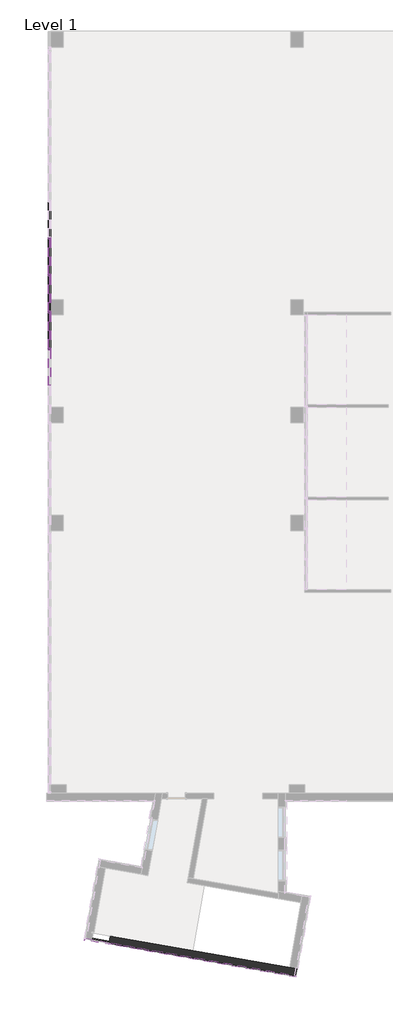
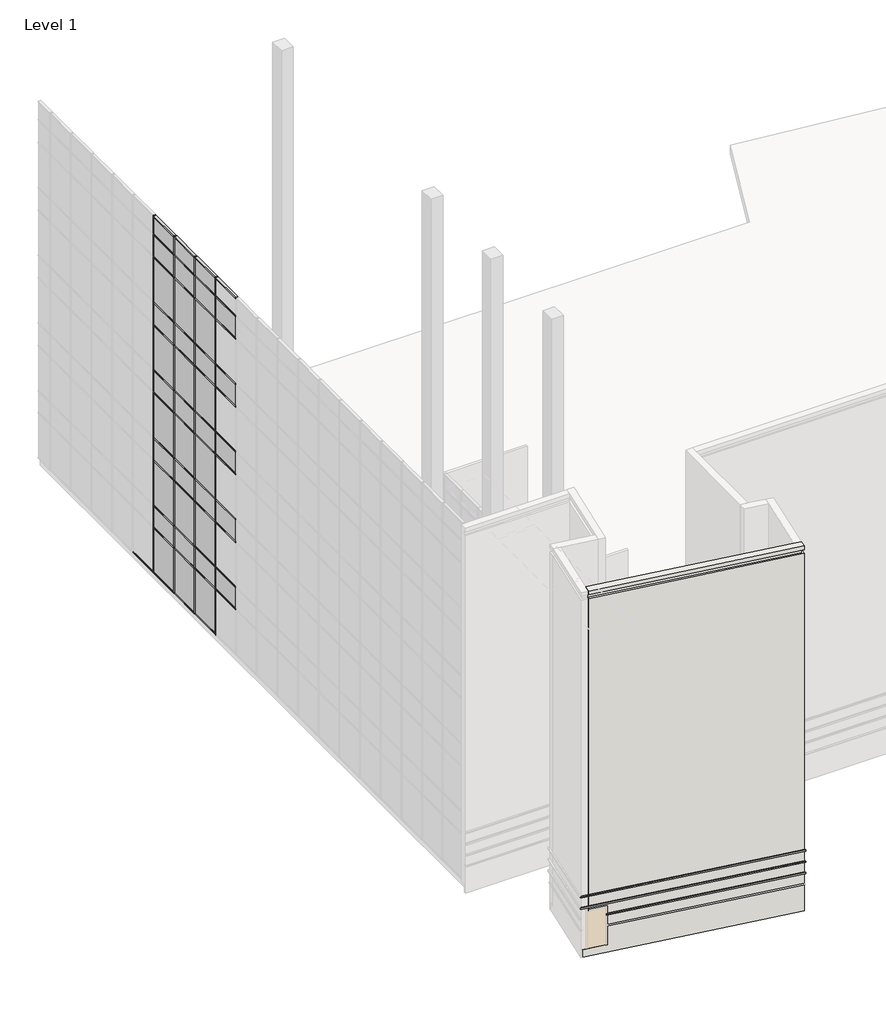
# One storey, part 4 of 23: 72 members, 38 plates, 3 proxies, 1 wall.
"""IFC4 building model written with IfcOpenShell, lengths in millimetres."""

from ifc_helpers import new_model, si_unit, frame, origin, place, context, project, spatial, polyline, outline, extrude, faceted_brep, transform, mapped, element, save
from components import member_f92b8aa2, member_810865a4, member_6d5c3e5e, member_9764dd38, system_panel_glazed_14c75400, system_panel_solid_5dfe6f83, system_panel_solid_e25e2004, system_panel_solid_b7551183

model = new_model("IFC4")

# Units and contexts
model_context = context("Model", 3, world=origin())
ifc_project = project(units=[si_unit("LENGTHUNIT", "METRE", prefix="MILLI")], contexts=[model_context])

# Site, building, storey
site = spatial("IfcSite", under=ifc_project)
building = spatial("IfcBuilding", under=site)
storey = spatial("IfcBuildingStorey", under=building, Name="Level 1", Elevation=0.0)

# Proxies
placement = place(None, origin())
element("IfcBuildingElementProxy", 1, Name="Reveals", at=placement, inside=storey, context=model_context, shape_type="SweptSolid", body=[
    extrude(outline(polyline([(-65796.5031372, -35188.4340603), (-65780.5144812, -35097.7578865), (-56600.3335692, -36716.4714691), (-56525.6460513, -36823.1362989), (-65796.5031372, -35188.4340603)])), frame((0.0, 0.0, 1625.6), z_axis=(0.0, 0.0, 1.0), x_axis=(1.0, 0.0, 0.0)), (0.0, 0.0, 1.0), 67.7333333),
])
element("IfcBuildingElementProxy", 2, Name="Reveals", at=placement, inside=storey, context=model_context, shape_type="SweptSolid", body=[
    extrude(outline(polyline([(-67022.1948666, -34972.3115384), (-66915.5300368, -34897.6240205), (-56600.3335692, -36716.4714691), (-56525.6460513, -36823.1362989), (-67022.1948666, -34972.3115384)])), frame((0.0, 0.0, 2235.2), z_axis=(0.0, 0.0, 1.0), x_axis=(1.0, 0.0, 0.0)), (0.0, 0.0, 1.0), 67.7333333),
])
element("IfcBuildingElementProxy", 3, Name="Reveals", at=placement, inside=storey, context=model_context, shape_type="SweptSolid", body=[
    extrude(outline(polyline([(-67022.1948666, -34972.3115384), (-66915.5300368, -34897.6240205), (-56600.3335692, -36716.4714691), (-56525.6460513, -36823.1362989), (-67022.1948666, -34972.3115384)])), frame((0.0, 0.0, 2844.8), z_axis=(0.0, 0.0, 1.0), x_axis=(1.0, 0.0, 0.0)), (0.0, 0.0, 1.0), 67.7333333),
])

# Members
member_shape = member_f92b8aa2(model_context)
element("IfcMember", 4, ObjectType="Rectangular Mullion : 2.5\" x 5\" rectangular", at=placement, inside=storey, context=model_context, shape_type="MappedRepresentation", body=[
    mapped(member_shape, transform((-68724.2599961, -5768.3103492, 18288.0), x_axis=(0.0, 1.0, 0.0), y_axis=(1.0, 0.0, 0.0), z_axis=(0.0, 0.0, -1.0))),
])
element("IfcMember", 5, ObjectType="Rectangular Mullion : 2.5\" x 5\" rectangular", at=placement, inside=storey, context=model_context, shape_type="MappedRepresentation", body=[
    mapped(member_shape, transform((-68724.2599961, -3939.5103492, 18288.0), x_axis=(0.0, 1.0, 0.0), y_axis=(1.0, 0.0, 0.0), z_axis=(0.0, 0.0, -1.0))),
])
element("IfcMember", 6, ObjectType="Rectangular Mullion : 2.5\" x 5\" rectangular", at=placement, inside=storey, context=model_context, shape_type="MappedRepresentation", body=[
    mapped(member_shape, transform((-68724.2599961, -2110.7103492, 18288.0), x_axis=(0.0, 1.0, 0.0), y_axis=(1.0, 0.0, 0.0), z_axis=(0.0, 0.0, -1.0))),
])
element("IfcMember", 7, ObjectType="Rectangular Mullion : 2.5\" x 5\" rectangular", at=placement, inside=storey, context=model_context, shape_type="MappedRepresentation", body=[
    mapped(member_shape, transform((-68724.2599961, -281.9103492, 18288.0), x_axis=(0.0, 1.0, 0.0), y_axis=(1.0, 0.0, 0.0), z_axis=(0.0, 0.0, -1.0))),
])
member_2_shape = member_810865a4(model_context)
element("IfcMember", 8, ObjectType="Rectangular Mullion : 2.5\" x 5\" rectangular", at=placement, inside=storey, context=model_context, shape_type="MappedRepresentation", body=[
    mapped(member_2_shape, transform((-68724.2599961, -5768.3103492, 3657.6), x_axis=(0.0, 1.0, 0.0), y_axis=(1.0, 0.0, 0.0), z_axis=(0.0, 0.0, -1.0))),
])
element("IfcMember", 9, ObjectType="Rectangular Mullion : 2.5\" x 5\" rectangular", at=placement, inside=storey, context=model_context, shape_type="MappedRepresentation", body=[
    mapped(member_2_shape, transform((-68724.2599961, -3939.5103492, 3657.6), x_axis=(0.0, 1.0, 0.0), y_axis=(1.0, 0.0, 0.0), z_axis=(0.0, 0.0, -1.0))),
])
element("IfcMember", 10, ObjectType="Rectangular Mullion : 2.5\" x 5\" rectangular", at=placement, inside=storey, context=model_context, shape_type="MappedRepresentation", body=[
    mapped(member_2_shape, transform((-68724.2599961, -2110.7103492, 3657.6), x_axis=(0.0, 1.0, 0.0), y_axis=(1.0, 0.0, 0.0), z_axis=(0.0, 0.0, -1.0))),
])
element("IfcMember", 11, ObjectType="Rectangular Mullion : 2.5\" x 5\" rectangular", at=placement, inside=storey, context=model_context, shape_type="MappedRepresentation", body=[
    mapped(member_2_shape, transform((-68724.2599961, -281.9103492, 3657.6), x_axis=(0.0, 1.0, 0.0), y_axis=(1.0, 0.0, 0.0), z_axis=(0.0, 0.0, -1.0))),
])
element("IfcMember", 12, ObjectType="Rectangular Mullion : 2.5\" x 5\" rectangular", at=placement, inside=storey, context=model_context, shape_type="MappedRepresentation", body=[
    mapped(member_2_shape, transform((-68724.2599961, -5768.3103492, 7315.2), x_axis=(0.0, 1.0, 0.0), y_axis=(1.0, 0.0, 0.0), z_axis=(0.0, 0.0, -1.0))),
])
element("IfcMember", 13, ObjectType="Rectangular Mullion : 2.5\" x 5\" rectangular", at=placement, inside=storey, context=model_context, shape_type="MappedRepresentation", body=[
    mapped(member_2_shape, transform((-68724.2599961, -3939.5103492, 7315.2), x_axis=(0.0, 1.0, 0.0), y_axis=(1.0, 0.0, 0.0), z_axis=(0.0, 0.0, -1.0))),
])
element("IfcMember", 14, ObjectType="Rectangular Mullion : 2.5\" x 5\" rectangular", at=placement, inside=storey, context=model_context, shape_type="MappedRepresentation", body=[
    mapped(member_2_shape, transform((-68724.2599961, -2110.7103492, 7315.2), x_axis=(0.0, 1.0, 0.0), y_axis=(1.0, 0.0, 0.0), z_axis=(0.0, 0.0, -1.0))),
])
element("IfcMember", 15, ObjectType="Rectangular Mullion : 2.5\" x 5\" rectangular", at=placement, inside=storey, context=model_context, shape_type="MappedRepresentation", body=[
    mapped(member_2_shape, transform((-68724.2599961, -281.9103492, 7315.2), x_axis=(0.0, 1.0, 0.0), y_axis=(1.0, 0.0, 0.0), z_axis=(0.0, 0.0, -1.0))),
])
element("IfcMember", 16, ObjectType="Rectangular Mullion : 2.5\" x 5\" rectangular", at=placement, inside=storey, context=model_context, shape_type="MappedRepresentation", body=[
    mapped(member_2_shape, transform((-68724.2599961, -5768.3103492, 10972.8), x_axis=(0.0, 1.0, 0.0), y_axis=(1.0, 0.0, 0.0), z_axis=(0.0, 0.0, -1.0))),
])
element("IfcMember", 17, ObjectType="Rectangular Mullion : 2.5\" x 5\" rectangular", at=placement, inside=storey, context=model_context, shape_type="MappedRepresentation", body=[
    mapped(member_2_shape, transform((-68724.2599961, -3939.5103492, 10972.8), x_axis=(0.0, 1.0, 0.0), y_axis=(1.0, 0.0, 0.0), z_axis=(0.0, 0.0, -1.0))),
])
element("IfcMember", 18, ObjectType="Rectangular Mullion : 2.5\" x 5\" rectangular", at=placement, inside=storey, context=model_context, shape_type="MappedRepresentation", body=[
    mapped(member_2_shape, transform((-68724.2599961, -2110.7103492, 10972.8), x_axis=(0.0, 1.0, 0.0), y_axis=(1.0, 0.0, 0.0), z_axis=(0.0, 0.0, -1.0))),
])
element("IfcMember", 19, ObjectType="Rectangular Mullion : 2.5\" x 5\" rectangular", at=placement, inside=storey, context=model_context, shape_type="MappedRepresentation", body=[
    mapped(member_2_shape, transform((-68724.2599961, -281.9103492, 10972.8), x_axis=(0.0, 1.0, 0.0), y_axis=(1.0, 0.0, 0.0), z_axis=(0.0, 0.0, -1.0))),
])
element("IfcMember", 20, ObjectType="Rectangular Mullion : 2.5\" x 5\" rectangular", at=placement, inside=storey, context=model_context, shape_type="MappedRepresentation", body=[
    mapped(member_2_shape, transform((-68724.2599961, -5768.3103492, 14630.4), x_axis=(0.0, 1.0, 0.0), y_axis=(1.0, 0.0, 0.0), z_axis=(0.0, 0.0, -1.0))),
])
element("IfcMember", 21, ObjectType="Rectangular Mullion : 2.5\" x 5\" rectangular", at=placement, inside=storey, context=model_context, shape_type="MappedRepresentation", body=[
    mapped(member_2_shape, transform((-68724.2599961, -3939.5103492, 14630.4), x_axis=(0.0, 1.0, 0.0), y_axis=(1.0, 0.0, 0.0), z_axis=(0.0, 0.0, -1.0))),
])
element("IfcMember", 22, ObjectType="Rectangular Mullion : 2.5\" x 5\" rectangular", at=placement, inside=storey, context=model_context, shape_type="MappedRepresentation", body=[
    mapped(member_2_shape, transform((-68724.2599961, -2110.7103492, 14630.4), x_axis=(0.0, 1.0, 0.0), y_axis=(1.0, 0.0, 0.0), z_axis=(0.0, 0.0, -1.0))),
])
element("IfcMember", 23, ObjectType="Rectangular Mullion : 2.5\" x 5\" rectangular", at=placement, inside=storey, context=model_context, shape_type="MappedRepresentation", body=[
    mapped(member_2_shape, transform((-68724.2599961, -281.9103492, 14630.4), x_axis=(0.0, 1.0, 0.0), y_axis=(1.0, 0.0, 0.0), z_axis=(0.0, 0.0, -1.0))),
])
member_3_shape = member_6d5c3e5e(model_context)
element("IfcMember", 24, ObjectType="Rectangular Mullion : 2.5\" x 5\" rectangular", at=placement, inside=storey, context=model_context, shape_type="MappedRepresentation", body=[
    mapped(member_3_shape, transform((-68724.2599961, -5800.0603492, 19304.0), x_axis=(0.0, 0.0, 1.0), y_axis=(1.0, 0.0, 0.0), z_axis=(0.0, 1.0, 0.0))),
])
element("IfcMember", 25, ObjectType="Rectangular Mullion : 2.5\" x 5\" rectangular", at=placement, inside=storey, context=model_context, shape_type="MappedRepresentation", body=[
    mapped(member_3_shape, transform((-68724.2599961, -3971.2603492, 19304.0), x_axis=(0.0, 0.0, 1.0), y_axis=(1.0, 0.0, 0.0), z_axis=(0.0, 1.0, 0.0))),
])
element("IfcMember", 26, ObjectType="Rectangular Mullion : 2.5\" x 5\" rectangular", at=placement, inside=storey, context=model_context, shape_type="MappedRepresentation", body=[
    mapped(member_3_shape, transform((-68724.2599961, -2142.4603492, 19304.0), x_axis=(0.0, 0.0, 1.0), y_axis=(1.0, 0.0, 0.0), z_axis=(0.0, 1.0, 0.0))),
])
element("IfcMember", 27, ObjectType="Rectangular Mullion : 2.5\" x 5\" rectangular", at=placement, inside=storey, context=model_context, shape_type="MappedRepresentation", body=[
    mapped(member_3_shape, transform((-68724.2599961, -313.6603492, 19304.0), x_axis=(0.0, 0.0, 1.0), y_axis=(1.0, 0.0, 0.0), z_axis=(0.0, 1.0, 0.0))),
])
member_4_shape = member_9764dd38(model_context)
element("IfcMember", 28, ObjectType="Rectangular Mullion : 2.5\" x 5\" rectangular", at=placement, inside=storey, context=model_context, shape_type="MappedRepresentation", body=[
    mapped(member_4_shape, transform((-68724.2599961, -313.6603492, 17068.8), x_axis=(0.0, 0.0, 1.0), y_axis=(1.0, 0.0, 0.0), z_axis=(0.0, 1.0, 0.0))),
])
element("IfcMember", 29, ObjectType="Rectangular Mullion : 2.5\" x 5\" rectangular", at=placement, inside=storey, context=model_context, shape_type="MappedRepresentation", body=[
    mapped(member_4_shape, transform((-68724.2599961, -2142.4603492, 17068.8), x_axis=(0.0, 0.0, 1.0), y_axis=(1.0, 0.0, 0.0), z_axis=(0.0, 1.0, 0.0))),
])
element("IfcMember", 30, ObjectType="Rectangular Mullion : 2.5\" x 5\" rectangular", at=placement, inside=storey, context=model_context, shape_type="MappedRepresentation", body=[
    mapped(member_4_shape, transform((-68724.2599961, -3971.2603492, 17068.8), x_axis=(0.0, 0.0, 1.0), y_axis=(1.0, 0.0, 0.0), z_axis=(0.0, 1.0, 0.0))),
])
element("IfcMember", 31, ObjectType="Rectangular Mullion : 2.5\" x 5\" rectangular", at=placement, inside=storey, context=model_context, shape_type="MappedRepresentation", body=[
    mapped(member_4_shape, transform((-68724.2599961, -5800.0603492, 17068.8), x_axis=(0.0, 0.0, 1.0), y_axis=(1.0, 0.0, 0.0), z_axis=(0.0, 1.0, 0.0))),
])
element("IfcMember", 32, ObjectType="Rectangular Mullion : 2.5\" x 5\" rectangular", at=placement, inside=storey, context=model_context, shape_type="MappedRepresentation", body=[
    mapped(member_4_shape, transform((-68724.2599961, -313.6603492, 13411.2), x_axis=(0.0, 0.0, 1.0), y_axis=(1.0, 0.0, 0.0), z_axis=(0.0, 1.0, 0.0))),
])
element("IfcMember", 33, ObjectType="Rectangular Mullion : 2.5\" x 5\" rectangular", at=placement, inside=storey, context=model_context, shape_type="MappedRepresentation", body=[
    mapped(member_4_shape, transform((-68724.2599961, -2142.4603492, 13411.2), x_axis=(0.0, 0.0, 1.0), y_axis=(1.0, 0.0, 0.0), z_axis=(0.0, 1.0, 0.0))),
])
element("IfcMember", 34, ObjectType="Rectangular Mullion : 2.5\" x 5\" rectangular", at=placement, inside=storey, context=model_context, shape_type="MappedRepresentation", body=[
    mapped(member_4_shape, transform((-68724.2599961, -3971.2603492, 13411.2), x_axis=(0.0, 0.0, 1.0), y_axis=(1.0, 0.0, 0.0), z_axis=(0.0, 1.0, 0.0))),
])
element("IfcMember", 35, ObjectType="Rectangular Mullion : 2.5\" x 5\" rectangular", at=placement, inside=storey, context=model_context, shape_type="MappedRepresentation", body=[
    mapped(member_4_shape, transform((-68724.2599961, -5800.0603492, 13411.2), x_axis=(0.0, 0.0, 1.0), y_axis=(1.0, 0.0, 0.0), z_axis=(0.0, 1.0, 0.0))),
])
element("IfcMember", 36, ObjectType="Rectangular Mullion : 2.5\" x 5\" rectangular", at=placement, inside=storey, context=model_context, shape_type="MappedRepresentation", body=[
    mapped(member_4_shape, transform((-68724.2599961, -313.6603492, 9753.6), x_axis=(0.0, 0.0, 1.0), y_axis=(1.0, 0.0, 0.0), z_axis=(0.0, 1.0, 0.0))),
])
element("IfcMember", 37, ObjectType="Rectangular Mullion : 2.5\" x 5\" rectangular", at=placement, inside=storey, context=model_context, shape_type="MappedRepresentation", body=[
    mapped(member_4_shape, transform((-68724.2599961, -2142.4603492, 9753.6), x_axis=(0.0, 0.0, 1.0), y_axis=(1.0, 0.0, 0.0), z_axis=(0.0, 1.0, 0.0))),
])
element("IfcMember", 38, ObjectType="Rectangular Mullion : 2.5\" x 5\" rectangular", at=placement, inside=storey, context=model_context, shape_type="MappedRepresentation", body=[
    mapped(member_4_shape, transform((-68724.2599961, -3971.2603492, 9753.6), x_axis=(0.0, 0.0, 1.0), y_axis=(1.0, 0.0, 0.0), z_axis=(0.0, 1.0, 0.0))),
])
element("IfcMember", 39, ObjectType="Rectangular Mullion : 2.5\" x 5\" rectangular", at=placement, inside=storey, context=model_context, shape_type="MappedRepresentation", body=[
    mapped(member_4_shape, transform((-68724.2599961, -5800.0603492, 9753.6), x_axis=(0.0, 0.0, 1.0), y_axis=(1.0, 0.0, 0.0), z_axis=(0.0, 1.0, 0.0))),
])
element("IfcMember", 40, ObjectType="Rectangular Mullion : 2.5\" x 5\" rectangular", at=placement, inside=storey, context=model_context, shape_type="MappedRepresentation", body=[
    mapped(member_4_shape, transform((-68724.2599961, -313.6603492, 6096.0), x_axis=(0.0, 0.0, 1.0), y_axis=(1.0, 0.0, 0.0), z_axis=(0.0, 1.0, 0.0))),
])
element("IfcMember", 41, ObjectType="Rectangular Mullion : 2.5\" x 5\" rectangular", at=placement, inside=storey, context=model_context, shape_type="MappedRepresentation", body=[
    mapped(member_4_shape, transform((-68724.2599961, -2142.4603492, 6096.0), x_axis=(0.0, 0.0, 1.0), y_axis=(1.0, 0.0, 0.0), z_axis=(0.0, 1.0, 0.0))),
])
element("IfcMember", 42, ObjectType="Rectangular Mullion : 2.5\" x 5\" rectangular", at=placement, inside=storey, context=model_context, shape_type="MappedRepresentation", body=[
    mapped(member_4_shape, transform((-68724.2599961, -3971.2603492, 6096.0), x_axis=(0.0, 0.0, 1.0), y_axis=(1.0, 0.0, 0.0), z_axis=(0.0, 1.0, 0.0))),
])
element("IfcMember", 43, ObjectType="Rectangular Mullion : 2.5\" x 5\" rectangular", at=placement, inside=storey, context=model_context, shape_type="MappedRepresentation", body=[
    mapped(member_4_shape, transform((-68724.2599961, -5800.0603492, 6096.0), x_axis=(0.0, 0.0, 1.0), y_axis=(1.0, 0.0, 0.0), z_axis=(0.0, 1.0, 0.0))),
])
element("IfcMember", 44, ObjectType="Rectangular Mullion : 2.5\" x 5\" rectangular", at=placement, inside=storey, context=model_context, shape_type="MappedRepresentation", body=[
    mapped(member_4_shape, transform((-68724.2599961, -313.6603492, 2470.15), x_axis=(0.0, 0.0, 1.0), y_axis=(1.0, 0.0, 0.0), z_axis=(0.0, 1.0, 0.0))),
])
element("IfcMember", 45, ObjectType="Rectangular Mullion : 2.5\" x 5\" rectangular", at=placement, inside=storey, context=model_context, shape_type="MappedRepresentation", body=[
    mapped(member_4_shape, transform((-68724.2599961, -2142.4603492, 2470.15), x_axis=(0.0, 0.0, 1.0), y_axis=(1.0, 0.0, 0.0), z_axis=(0.0, 1.0, 0.0))),
])
element("IfcMember", 46, ObjectType="Rectangular Mullion : 2.5\" x 5\" rectangular", at=placement, inside=storey, context=model_context, shape_type="MappedRepresentation", body=[
    mapped(member_4_shape, transform((-68724.2599961, -3971.2603492, 2470.15), x_axis=(0.0, 0.0, 1.0), y_axis=(1.0, 0.0, 0.0), z_axis=(0.0, 1.0, 0.0))),
])
element("IfcMember", 47, ObjectType="Rectangular Mullion : 2.5\" x 5\" rectangular", at=placement, inside=storey, context=model_context, shape_type="MappedRepresentation", body=[
    mapped(member_4_shape, transform((-68724.2599961, -5800.0603492, 2470.15), x_axis=(0.0, 0.0, 1.0), y_axis=(1.0, 0.0, 0.0), z_axis=(0.0, 1.0, 0.0))),
])
element("IfcMember", 48, ObjectType="Rectangular Mullion : 2.5\" x 5\" rectangular", at=placement, inside=storey, context=model_context, shape_type="MappedRepresentation", body=[
    mapped(member_2_shape, transform((-68724.2599961, -5768.3103492, 0.0), x_axis=(0.0, 1.0, 0.0), y_axis=(1.0, 0.0, 0.0), z_axis=(0.0, 0.0, -1.0))),
])
element("IfcMember", 49, ObjectType="Rectangular Mullion : 2.5\" x 5\" rectangular", at=placement, inside=storey, context=model_context, shape_type="MappedRepresentation", body=[
    mapped(member_2_shape, transform((-68724.2599961, -3939.5103492, 0.0), x_axis=(0.0, 1.0, 0.0), y_axis=(1.0, 0.0, 0.0), z_axis=(0.0, 0.0, -1.0))),
])
element("IfcMember", 50, ObjectType="Rectangular Mullion : 2.5\" x 5\" rectangular", at=placement, inside=storey, context=model_context, shape_type="MappedRepresentation", body=[
    mapped(member_2_shape, transform((-68724.2599961, -2110.7103492, 0.0), x_axis=(0.0, 1.0, 0.0), y_axis=(1.0, 0.0, 0.0), z_axis=(0.0, 0.0, -1.0))),
])
element("IfcMember", 51, ObjectType="Rectangular Mullion : 2.5\" x 5\" rectangular", at=placement, inside=storey, context=model_context, shape_type="MappedRepresentation", body=[
    mapped(member_2_shape, transform((-68724.2599961, -281.9103492, 0.0), x_axis=(0.0, 1.0, 0.0), y_axis=(1.0, 0.0, 0.0), z_axis=(0.0, 0.0, -1.0))),
])
element("IfcMember", 52, ObjectType="Rectangular Mullion : 2.5\" x 5\" rectangular", at=placement, inside=storey, context=model_context, shape_type="MappedRepresentation", body=[
    mapped(member_3_shape, transform((-68724.2599961, -5736.5603492, 0.0), x_axis=(0.0, 0.0, -1.0), y_axis=(1.0, 0.0, 0.0), z_axis=(0.0, -1.0, 0.0))),
])
element("IfcMember", 53, ObjectType="Rectangular Mullion : 2.5\" x 5\" rectangular", at=placement, inside=storey, context=model_context, shape_type="MappedRepresentation", body=[
    mapped(member_3_shape, transform((-68724.2599961, -3907.7603492, 0.0), x_axis=(0.0, 0.0, -1.0), y_axis=(1.0, 0.0, 0.0), z_axis=(0.0, -1.0, 0.0))),
])
element("IfcMember", 54, ObjectType="Rectangular Mullion : 2.5\" x 5\" rectangular", at=placement, inside=storey, context=model_context, shape_type="MappedRepresentation", body=[
    mapped(member_3_shape, transform((-68724.2599961, -2078.9603492, 0.0), x_axis=(0.0, 0.0, -1.0), y_axis=(1.0, 0.0, 0.0), z_axis=(0.0, -1.0, 0.0))),
])
element("IfcMember", 55, ObjectType="Rectangular Mullion : 2.5\" x 5\" rectangular", at=placement, inside=storey, context=model_context, shape_type="MappedRepresentation", body=[
    mapped(member_3_shape, transform((-68724.2599961, -250.1603492, 0.0), x_axis=(0.0, 0.0, -1.0), y_axis=(1.0, 0.0, 0.0), z_axis=(0.0, -1.0, 0.0))),
])
element("IfcMember", 56, ObjectType="Rectangular Mullion : 2.5\" x 5\" rectangular", at=placement, inside=storey, context=model_context, shape_type="MappedRepresentation", body=[
    mapped(member_4_shape, transform((-68724.2599961, -5800.0603492, 3657.6), x_axis=(0.0, 0.0, 1.0), y_axis=(1.0, 0.0, 0.0), z_axis=(0.0, 1.0, 0.0))),
])
element("IfcMember", 57, ObjectType="Rectangular Mullion : 2.5\" x 5\" rectangular", at=placement, inside=storey, context=model_context, shape_type="MappedRepresentation", body=[
    mapped(member_4_shape, transform((-68724.2599961, -3971.2603492, 3657.6), x_axis=(0.0, 0.0, 1.0), y_axis=(1.0, 0.0, 0.0), z_axis=(0.0, 1.0, 0.0))),
])
element("IfcMember", 58, ObjectType="Rectangular Mullion : 2.5\" x 5\" rectangular", at=placement, inside=storey, context=model_context, shape_type="MappedRepresentation", body=[
    mapped(member_4_shape, transform((-68724.2599961, -2142.4603492, 3657.6), x_axis=(0.0, 0.0, 1.0), y_axis=(1.0, 0.0, 0.0), z_axis=(0.0, 1.0, 0.0))),
])
element("IfcMember", 59, ObjectType="Rectangular Mullion : 2.5\" x 5\" rectangular", at=placement, inside=storey, context=model_context, shape_type="MappedRepresentation", body=[
    mapped(member_4_shape, transform((-68724.2599961, -313.6603492, 3657.6), x_axis=(0.0, 0.0, 1.0), y_axis=(1.0, 0.0, 0.0), z_axis=(0.0, 1.0, 0.0))),
])
element("IfcMember", 60, ObjectType="Rectangular Mullion : 2.5\" x 5\" rectangular", at=placement, inside=storey, context=model_context, shape_type="MappedRepresentation", body=[
    mapped(member_4_shape, transform((-68724.2599961, -5800.0603492, 7315.2), x_axis=(0.0, 0.0, 1.0), y_axis=(1.0, 0.0, 0.0), z_axis=(0.0, 1.0, 0.0))),
])
element("IfcMember", 61, ObjectType="Rectangular Mullion : 2.5\" x 5\" rectangular", at=placement, inside=storey, context=model_context, shape_type="MappedRepresentation", body=[
    mapped(member_4_shape, transform((-68724.2599961, -3971.2603492, 7315.2), x_axis=(0.0, 0.0, 1.0), y_axis=(1.0, 0.0, 0.0), z_axis=(0.0, 1.0, 0.0))),
])
element("IfcMember", 62, ObjectType="Rectangular Mullion : 2.5\" x 5\" rectangular", at=placement, inside=storey, context=model_context, shape_type="MappedRepresentation", body=[
    mapped(member_4_shape, transform((-68724.2599961, -2142.4603492, 7315.2), x_axis=(0.0, 0.0, 1.0), y_axis=(1.0, 0.0, 0.0), z_axis=(0.0, 1.0, 0.0))),
])
element("IfcMember", 63, ObjectType="Rectangular Mullion : 2.5\" x 5\" rectangular", at=placement, inside=storey, context=model_context, shape_type="MappedRepresentation", body=[
    mapped(member_4_shape, transform((-68724.2599961, -313.6603492, 7315.2), x_axis=(0.0, 0.0, 1.0), y_axis=(1.0, 0.0, 0.0), z_axis=(0.0, 1.0, 0.0))),
])
element("IfcMember", 64, ObjectType="Rectangular Mullion : 2.5\" x 5\" rectangular", at=placement, inside=storey, context=model_context, shape_type="MappedRepresentation", body=[
    mapped(member_4_shape, transform((-68724.2599961, -5800.0603492, 10972.8), x_axis=(0.0, 0.0, 1.0), y_axis=(1.0, 0.0, 0.0), z_axis=(0.0, 1.0, 0.0))),
])
element("IfcMember", 65, ObjectType="Rectangular Mullion : 2.5\" x 5\" rectangular", at=placement, inside=storey, context=model_context, shape_type="MappedRepresentation", body=[
    mapped(member_4_shape, transform((-68724.2599961, -3971.2603492, 10972.8), x_axis=(0.0, 0.0, 1.0), y_axis=(1.0, 0.0, 0.0), z_axis=(0.0, 1.0, 0.0))),
])
element("IfcMember", 66, ObjectType="Rectangular Mullion : 2.5\" x 5\" rectangular", at=placement, inside=storey, context=model_context, shape_type="MappedRepresentation", body=[
    mapped(member_4_shape, transform((-68724.2599961, -2142.4603492, 10972.8), x_axis=(0.0, 0.0, 1.0), y_axis=(1.0, 0.0, 0.0), z_axis=(0.0, 1.0, 0.0))),
])
element("IfcMember", 67, ObjectType="Rectangular Mullion : 2.5\" x 5\" rectangular", at=placement, inside=storey, context=model_context, shape_type="MappedRepresentation", body=[
    mapped(member_4_shape, transform((-68724.2599961, -313.6603492, 10972.8), x_axis=(0.0, 0.0, 1.0), y_axis=(1.0, 0.0, 0.0), z_axis=(0.0, 1.0, 0.0))),
])
element("IfcMember", 68, ObjectType="Rectangular Mullion : 2.5\" x 5\" rectangular", at=placement, inside=storey, context=model_context, shape_type="MappedRepresentation", body=[
    mapped(member_4_shape, transform((-68724.2599961, -5800.0603492, 14630.4), x_axis=(0.0, 0.0, 1.0), y_axis=(1.0, 0.0, 0.0), z_axis=(0.0, 1.0, 0.0))),
])
element("IfcMember", 69, ObjectType="Rectangular Mullion : 2.5\" x 5\" rectangular", at=placement, inside=storey, context=model_context, shape_type="MappedRepresentation", body=[
    mapped(member_4_shape, transform((-68724.2599961, -3971.2603492, 14630.4), x_axis=(0.0, 0.0, 1.0), y_axis=(1.0, 0.0, 0.0), z_axis=(0.0, 1.0, 0.0))),
])
element("IfcMember", 70, ObjectType="Rectangular Mullion : 2.5\" x 5\" rectangular", at=placement, inside=storey, context=model_context, shape_type="MappedRepresentation", body=[
    mapped(member_4_shape, transform((-68724.2599961, -2142.4603492, 14630.4), x_axis=(0.0, 0.0, 1.0), y_axis=(1.0, 0.0, 0.0), z_axis=(0.0, 1.0, 0.0))),
])
element("IfcMember", 71, ObjectType="Rectangular Mullion : 2.5\" x 5\" rectangular", at=placement, inside=storey, context=model_context, shape_type="MappedRepresentation", body=[
    mapped(member_4_shape, transform((-68724.2599961, -313.6603492, 14630.4), x_axis=(0.0, 0.0, 1.0), y_axis=(1.0, 0.0, 0.0), z_axis=(0.0, 1.0, 0.0))),
])
element("IfcMember", 72, ObjectType="Rectangular Mullion : 2.5\" x 5\" rectangular", at=placement, inside=storey, context=model_context, shape_type="MappedRepresentation", body=[
    mapped(member_4_shape, transform((-68724.2599961, -5800.0603492, 18288.0), x_axis=(0.0, 0.0, 1.0), y_axis=(1.0, 0.0, 0.0), z_axis=(0.0, 1.0, 0.0))),
])
element("IfcMember", 73, ObjectType="Rectangular Mullion : 2.5\" x 5\" rectangular", at=placement, inside=storey, context=model_context, shape_type="MappedRepresentation", body=[
    mapped(member_4_shape, transform((-68724.2599961, -3971.2603492, 18288.0), x_axis=(0.0, 0.0, 1.0), y_axis=(1.0, 0.0, 0.0), z_axis=(0.0, 1.0, 0.0))),
])
element("IfcMember", 74, ObjectType="Rectangular Mullion : 2.5\" x 5\" rectangular", at=placement, inside=storey, context=model_context, shape_type="MappedRepresentation", body=[
    mapped(member_4_shape, transform((-68724.2599961, -2142.4603492, 18288.0), x_axis=(0.0, 0.0, 1.0), y_axis=(1.0, 0.0, 0.0), z_axis=(0.0, 1.0, 0.0))),
])
element("IfcMember", 75, ObjectType="Rectangular Mullion : 2.5\" x 5\" rectangular", at=placement, inside=storey, context=model_context, shape_type="MappedRepresentation", body=[
    mapped(member_4_shape, transform((-68724.2599961, -313.6603492, 18288.0), x_axis=(0.0, 0.0, 1.0), y_axis=(1.0, 0.0, 0.0), z_axis=(0.0, 1.0, 0.0))),
])

# Plates
system_panel_glazed_shape = system_panel_glazed_14c75400(model_context)
element("IfcPlate", 76, ObjectType="System Panel : Glazed", at=placement, inside=storey, context=model_context, shape_type="MappedRepresentation", body=[
    mapped(system_panel_glazed_shape, transform((-68724.2599961, -1196.3103492, 14662.15), x_axis=(0.0, 1.0, 0.0), y_axis=(-1.0, 0.0, 0.0), z_axis=(0.0, 0.0, 1.0))),
])
element("IfcPlate", 77, ObjectType="System Panel : Glazed", at=placement, inside=storey, context=model_context, shape_type="MappedRepresentation", body=[
    mapped(system_panel_glazed_shape, transform((-68724.2599961, -3025.1103492, 14662.15), x_axis=(0.0, 1.0, 0.0), y_axis=(-1.0, 0.0, 0.0), z_axis=(0.0, 0.0, 1.0))),
])
element("IfcPlate", 78, ObjectType="System Panel : Glazed", at=placement, inside=storey, context=model_context, shape_type="MappedRepresentation", body=[
    mapped(system_panel_glazed_shape, transform((-68724.2599961, -4853.9103492, 14662.15), x_axis=(0.0, 1.0, 0.0), y_axis=(-1.0, 0.0, 0.0), z_axis=(0.0, 0.0, 1.0))),
])
element("IfcPlate", 79, ObjectType="System Panel : Glazed", at=placement, inside=storey, context=model_context, shape_type="MappedRepresentation", body=[
    mapped(system_panel_glazed_shape, transform((-68724.2599961, -1196.3103492, 11004.55), x_axis=(0.0, 1.0, 0.0), y_axis=(-1.0, 0.0, 0.0), z_axis=(0.0, 0.0, 1.0))),
])
element("IfcPlate", 80, ObjectType="System Panel : Glazed", at=placement, inside=storey, context=model_context, shape_type="MappedRepresentation", body=[
    mapped(system_panel_glazed_shape, transform((-68724.2599961, -3025.1103492, 11004.55), x_axis=(0.0, 1.0, 0.0), y_axis=(-1.0, 0.0, 0.0), z_axis=(0.0, 0.0, 1.0))),
])
element("IfcPlate", 81, ObjectType="System Panel : Glazed", at=placement, inside=storey, context=model_context, shape_type="MappedRepresentation", body=[
    mapped(system_panel_glazed_shape, transform((-68724.2599961, -4853.9103492, 11004.55), x_axis=(0.0, 1.0, 0.0), y_axis=(-1.0, 0.0, 0.0), z_axis=(0.0, 0.0, 1.0))),
])
element("IfcPlate", 82, ObjectType="System Panel : Glazed", at=placement, inside=storey, context=model_context, shape_type="MappedRepresentation", body=[
    mapped(system_panel_glazed_shape, transform((-68724.2599961, -1196.3103492, 7346.95), x_axis=(0.0, 1.0, 0.0), y_axis=(-1.0, 0.0, 0.0), z_axis=(0.0, 0.0, 1.0))),
])
element("IfcPlate", 83, ObjectType="System Panel : Glazed", at=placement, inside=storey, context=model_context, shape_type="MappedRepresentation", body=[
    mapped(system_panel_glazed_shape, transform((-68724.2599961, -3025.1103492, 7346.95), x_axis=(0.0, 1.0, 0.0), y_axis=(-1.0, 0.0, 0.0), z_axis=(0.0, 0.0, 1.0))),
])
element("IfcPlate", 84, ObjectType="System Panel : Glazed", at=placement, inside=storey, context=model_context, shape_type="MappedRepresentation", body=[
    mapped(system_panel_glazed_shape, transform((-68724.2599961, -4853.9103492, 7346.95), x_axis=(0.0, 1.0, 0.0), y_axis=(-1.0, 0.0, 0.0), z_axis=(0.0, 0.0, 1.0))),
])
element("IfcPlate", 85, ObjectType="System Panel : Glazed", at=placement, inside=storey, context=model_context, shape_type="MappedRepresentation", body=[
    mapped(system_panel_glazed_shape, transform((-68724.2599961, -1196.3103492, 3689.35), x_axis=(0.0, 1.0, 0.0), y_axis=(-1.0, 0.0, 0.0), z_axis=(0.0, 0.0, 1.0))),
])
element("IfcPlate", 86, ObjectType="System Panel : Glazed", at=placement, inside=storey, context=model_context, shape_type="MappedRepresentation", body=[
    mapped(system_panel_glazed_shape, transform((-68724.2599961, -3025.1103492, 3689.35), x_axis=(0.0, 1.0, 0.0), y_axis=(-1.0, 0.0, 0.0), z_axis=(0.0, 0.0, 1.0))),
])
element("IfcPlate", 87, ObjectType="System Panel : Glazed", at=placement, inside=storey, context=model_context, shape_type="MappedRepresentation", body=[
    mapped(system_panel_glazed_shape, transform((-68724.2599961, -4853.9103492, 3689.35), x_axis=(0.0, 1.0, 0.0), y_axis=(-1.0, 0.0, 0.0), z_axis=(0.0, 0.0, 1.0))),
])
element("IfcPlate", 88, ObjectType="System Panel : Glazed", at=placement, inside=storey, context=model_context, shape_type="MappedRepresentation", body=[
    mapped(system_panel_glazed_shape, transform((-68724.2599961, -1196.3103492, 63.5), x_axis=(0.0, 1.0, 0.0), y_axis=(-1.0, 0.0, 0.0), z_axis=(0.0, 0.0, 1.0))),
])
element("IfcPlate", 89, ObjectType="System Panel : Glazed", at=placement, inside=storey, context=model_context, shape_type="MappedRepresentation", body=[
    mapped(system_panel_glazed_shape, transform((-68724.2599961, -3025.1103492, 63.5), x_axis=(0.0, 1.0, 0.0), y_axis=(-1.0, 0.0, 0.0), z_axis=(0.0, 0.0, 1.0))),
])
element("IfcPlate", 90, ObjectType="System Panel : Glazed", at=placement, inside=storey, context=model_context, shape_type="MappedRepresentation", body=[
    mapped(system_panel_glazed_shape, transform((-68724.2599961, -4853.9103492, 63.5), x_axis=(0.0, 1.0, 0.0), y_axis=(-1.0, 0.0, 0.0), z_axis=(0.0, 0.0, 1.0))),
])
system_panel_solid_shape = system_panel_solid_5dfe6f83(model_context)
element("IfcPlate", 91, ObjectType="System Panel : Solid", at=placement, inside=storey, context=model_context, shape_type="MappedRepresentation", body=[
    mapped(system_panel_solid_shape, transform((-68724.2599961, -4853.9103492, 18319.75), x_axis=(0.0, 1.0, 0.0), y_axis=(-1.0, 0.0, 0.0), z_axis=(0.0, 0.0, 1.0))),
])
element("IfcPlate", 92, ObjectType="System Panel : Solid", at=placement, inside=storey, context=model_context, shape_type="MappedRepresentation", body=[
    mapped(system_panel_solid_shape, transform((-68724.2599961, -3025.1103492, 18319.75), x_axis=(0.0, 1.0, 0.0), y_axis=(-1.0, 0.0, 0.0), z_axis=(0.0, 0.0, 1.0))),
])
element("IfcPlate", 93, ObjectType="System Panel : Solid", at=placement, inside=storey, context=model_context, shape_type="MappedRepresentation", body=[
    mapped(system_panel_solid_shape, transform((-68724.2599961, -1196.3103492, 18319.75), x_axis=(0.0, 1.0, 0.0), y_axis=(-1.0, 0.0, 0.0), z_axis=(0.0, 0.0, 1.0))),
])
system_panel_solid_2_shape = system_panel_solid_e25e2004(model_context)
element("IfcPlate", 94, ObjectType="System Panel : Solid", at=placement, inside=storey, context=model_context, shape_type="MappedRepresentation", body=[
    mapped(system_panel_solid_2_shape, transform((-68724.2599961, -1196.3103492, 17100.55), x_axis=(0.0, 1.0, 0.0), y_axis=(-1.0, 0.0, 0.0), z_axis=(0.0, 0.0, 1.0))),
])
element("IfcPlate", 95, ObjectType="System Panel : Solid", at=placement, inside=storey, context=model_context, shape_type="MappedRepresentation", body=[
    mapped(system_panel_solid_2_shape, transform((-68724.2599961, -3025.1103492, 17100.55), x_axis=(0.0, 1.0, 0.0), y_axis=(-1.0, 0.0, 0.0), z_axis=(0.0, 0.0, 1.0))),
])
element("IfcPlate", 96, ObjectType="System Panel : Solid", at=placement, inside=storey, context=model_context, shape_type="MappedRepresentation", body=[
    mapped(system_panel_solid_2_shape, transform((-68724.2599961, -4853.9103492, 17100.55), x_axis=(0.0, 1.0, 0.0), y_axis=(-1.0, 0.0, 0.0), z_axis=(0.0, 0.0, 1.0))),
])
element("IfcPlate", 97, ObjectType="System Panel : Solid", at=placement, inside=storey, context=model_context, shape_type="MappedRepresentation", body=[
    mapped(system_panel_solid_2_shape, transform((-68724.2599961, -6682.7103492, 17100.55), x_axis=(0.0, 1.0, 0.0), y_axis=(-1.0, 0.0, 0.0), z_axis=(0.0, 0.0, 1.0))),
])
element("IfcPlate", 98, ObjectType="System Panel : Solid", at=placement, inside=storey, context=model_context, shape_type="MappedRepresentation", body=[
    mapped(system_panel_solid_2_shape, transform((-68724.2599961, -1196.3103492, 13442.95), x_axis=(0.0, 1.0, 0.0), y_axis=(-1.0, 0.0, 0.0), z_axis=(0.0, 0.0, 1.0))),
])
element("IfcPlate", 99, ObjectType="System Panel : Solid", at=placement, inside=storey, context=model_context, shape_type="MappedRepresentation", body=[
    mapped(system_panel_solid_2_shape, transform((-68724.2599961, -3025.1103492, 13442.95), x_axis=(0.0, 1.0, 0.0), y_axis=(-1.0, 0.0, 0.0), z_axis=(0.0, 0.0, 1.0))),
])
element("IfcPlate", 100, ObjectType="System Panel : Solid", at=placement, inside=storey, context=model_context, shape_type="MappedRepresentation", body=[
    mapped(system_panel_solid_2_shape, transform((-68724.2599961, -4853.9103492, 13442.95), x_axis=(0.0, 1.0, 0.0), y_axis=(-1.0, 0.0, 0.0), z_axis=(0.0, 0.0, 1.0))),
])
element("IfcPlate", 101, ObjectType="System Panel : Solid", at=placement, inside=storey, context=model_context, shape_type="MappedRepresentation", body=[
    mapped(system_panel_solid_2_shape, transform((-68724.2599961, -6682.7103492, 13442.95), x_axis=(0.0, 1.0, 0.0), y_axis=(-1.0, 0.0, 0.0), z_axis=(0.0, 0.0, 1.0))),
])
element("IfcPlate", 102, ObjectType="System Panel : Solid", at=placement, inside=storey, context=model_context, shape_type="MappedRepresentation", body=[
    mapped(system_panel_solid_2_shape, transform((-68724.2599961, -1196.3103492, 9785.35), x_axis=(0.0, 1.0, 0.0), y_axis=(-1.0, 0.0, 0.0), z_axis=(0.0, 0.0, 1.0))),
])
element("IfcPlate", 103, ObjectType="System Panel : Solid", at=placement, inside=storey, context=model_context, shape_type="MappedRepresentation", body=[
    mapped(system_panel_solid_2_shape, transform((-68724.2599961, -3025.1103492, 9785.35), x_axis=(0.0, 1.0, 0.0), y_axis=(-1.0, 0.0, 0.0), z_axis=(0.0, 0.0, 1.0))),
])
element("IfcPlate", 104, ObjectType="System Panel : Solid", at=placement, inside=storey, context=model_context, shape_type="MappedRepresentation", body=[
    mapped(system_panel_solid_2_shape, transform((-68724.2599961, -4853.9103492, 9785.35), x_axis=(0.0, 1.0, 0.0), y_axis=(-1.0, 0.0, 0.0), z_axis=(0.0, 0.0, 1.0))),
])
element("IfcPlate", 105, ObjectType="System Panel : Solid", at=placement, inside=storey, context=model_context, shape_type="MappedRepresentation", body=[
    mapped(system_panel_solid_2_shape, transform((-68724.2599961, -6682.7103492, 9785.35), x_axis=(0.0, 1.0, 0.0), y_axis=(-1.0, 0.0, 0.0), z_axis=(0.0, 0.0, 1.0))),
])
element("IfcPlate", 106, ObjectType="System Panel : Solid", at=placement, inside=storey, context=model_context, shape_type="MappedRepresentation", body=[
    mapped(system_panel_solid_2_shape, transform((-68724.2599961, -1196.3103492, 6127.75), x_axis=(0.0, 1.0, 0.0), y_axis=(-1.0, 0.0, 0.0), z_axis=(0.0, 0.0, 1.0))),
])
element("IfcPlate", 107, ObjectType="System Panel : Solid", at=placement, inside=storey, context=model_context, shape_type="MappedRepresentation", body=[
    mapped(system_panel_solid_2_shape, transform((-68724.2599961, -3025.1103492, 6127.75), x_axis=(0.0, 1.0, 0.0), y_axis=(-1.0, 0.0, 0.0), z_axis=(0.0, 0.0, 1.0))),
])
element("IfcPlate", 108, ObjectType="System Panel : Solid", at=placement, inside=storey, context=model_context, shape_type="MappedRepresentation", body=[
    mapped(system_panel_solid_2_shape, transform((-68724.2599961, -4853.9103492, 6127.75), x_axis=(0.0, 1.0, 0.0), y_axis=(-1.0, 0.0, 0.0), z_axis=(0.0, 0.0, 1.0))),
])
element("IfcPlate", 109, ObjectType="System Panel : Solid", at=placement, inside=storey, context=model_context, shape_type="MappedRepresentation", body=[
    mapped(system_panel_solid_2_shape, transform((-68724.2599961, -6682.7103492, 6127.75), x_axis=(0.0, 1.0, 0.0), y_axis=(-1.0, 0.0, 0.0), z_axis=(0.0, 0.0, 1.0))),
])
system_panel_solid_3_shape = system_panel_solid_b7551183(model_context)
element("IfcPlate", 110, ObjectType="System Panel : Solid", at=placement, inside=storey, context=model_context, shape_type="MappedRepresentation", body=[
    mapped(system_panel_solid_3_shape, transform((-68724.2599961, -1196.3103492, 2501.9), x_axis=(0.0, 1.0, 0.0), y_axis=(-1.0, 0.0, 0.0), z_axis=(0.0, 0.0, 1.0))),
])
element("IfcPlate", 111, ObjectType="System Panel : Solid", at=placement, inside=storey, context=model_context, shape_type="MappedRepresentation", body=[
    mapped(system_panel_solid_3_shape, transform((-68724.2599961, -3025.1103492, 2501.9), x_axis=(0.0, 1.0, 0.0), y_axis=(-1.0, 0.0, 0.0), z_axis=(0.0, 0.0, 1.0))),
])
element("IfcPlate", 112, ObjectType="System Panel : Solid", at=placement, inside=storey, context=model_context, shape_type="MappedRepresentation", body=[
    mapped(system_panel_solid_3_shape, transform((-68724.2599961, -4853.9103492, 2501.9), x_axis=(0.0, 1.0, 0.0), y_axis=(-1.0, 0.0, 0.0), z_axis=(0.0, 0.0, 1.0))),
])
element("IfcPlate", 113, ObjectType="System Panel : Solid", at=placement, inside=storey, context=model_context, shape_type="MappedRepresentation", body=[
    mapped(system_panel_solid_3_shape, transform((-68724.2599961, -6682.7103492, 2501.9), x_axis=(0.0, 1.0, 0.0), y_axis=(-1.0, 0.0, 0.0), z_axis=(0.0, 0.0, 1.0))),
])

# Wall
element("IfcWall", 114, ObjectType="Exterior - Brick and CMU on MTL. Stud", at=placement, inside=storey, context=model_context, shape_type="Brep", body=[
    faceted_brep([(-56579.730116, -36745.8962497, 19304.0), (-66597.8839451, -34979.4254327, 19304.0), (-66597.8839451, -34979.4254327, 19100.8), (-56579.730116, -36745.8962497, 19100.8), (-66597.8839451, -34979.4254327, 2032.0), (-65784.925145, -35122.7720034, 2032.0), (-65784.925145, -35122.7720034, 1693.3333333), (-56579.730116, -36745.8962497, 1693.3333333), (-56579.730116, -36745.8962497, 2235.2), (-66597.8839451, -34979.4254327, 2235.2), (-56579.730116, -36745.8962497, 1625.6), (-65784.925145, -35122.7720034, 1625.6), (-65784.925145, -35122.7720034, 1085.85), (-56579.730116, -36745.8962497, 1085.85), (-56579.730116, -36745.8962497, 1016.0), (-65784.925145, -35122.7720034, 1016.0), (-65784.925145, -35122.7720034, 0.0), (-66635.4051205, -34972.8094372, 0.0), (-66854.2786436, -34934.2161297, 0.0), (-66854.2786436, -34934.2161297, -406.4), (-56579.730116, -36745.8962497, -406.4), (-66597.8839451, -34979.4254327, 2302.9333333), (-56579.730116, -36745.8962497, 2302.9333333), (-56579.730116, -36745.8962497, 2844.8), (-66597.8839451, -34979.4254327, 2844.8), (-66597.8839451, -34979.4254327, 2912.5333333), (-56579.730116, -36745.8962497, 2912.5333333), (-56579.730116, -36745.8962497, 18897.6), (-66597.8839451, -34979.4254327, 18897.6), (-66536.6859861, -34632.3545604, 19304.0), (-56865.6030293, -36337.6274183, 19304.0), (-56518.532157, -36398.8253773, 19304.0), (-56518.532157, -36398.8253773, 19100.8), (-56609.2083309, -36382.8367214, 19100.8), (-56609.2083309, -36382.8367214, 18897.6), (-56518.532157, -36398.8253773, 18897.6), (-56518.532157, -36398.8253773, 2912.5333333), (-56543.5462739, -36394.4147136, 2912.5333333), (-56543.5462739, -36394.4147136, 2844.8), (-56518.532157, -36398.8253773, 2844.8), (-56518.532157, -36398.8253773, 2302.9333333), (-56543.5462739, -36394.4147136, 2302.9333333), (-56543.5462739, -36394.4147136, 2235.2), (-56518.532157, -36398.8253773, 2235.2), (-56518.532157, -36398.8253773, 1693.3333333), (-56543.5462739, -36394.4147136, 1693.3333333), (-56543.5462739, -36394.4147136, 1625.6), (-56518.532157, -36398.8253773, 1625.6), (-56518.532157, -36398.8253773, 1085.85), (-56609.2083309, -36382.8367214, 1085.85), (-56609.2083309, -36382.8367214, 1016.0), (-56518.532157, -36398.8253773, 1016.0), (-56518.532157, -36398.8253773, 0.0), (-56865.6030293, -36337.6274183, 0.0), (-65723.7271859, -34775.701131, 0.0), (-65723.7271859, -34775.701131, 2032.0), (-66536.6859861, -34632.3545604, 2032.0), (-66536.6859861, -34632.3545604, 3222.625), (-61655.8064208, -35492.9853173, 3222.625), (-61655.8064208, -35492.9853173, 3657.6), (-66536.6859861, -34632.3545604, 3657.6), (-66538.8913179, -34644.8616188, 3657.6), (-66538.8913179, -34644.8616188, 3222.625), (-66593.4732814, -34954.4113158, 2235.2), (-66593.4732814, -34954.4113158, 2302.9333333), (-66593.4732814, -34954.4113158, 2844.8), (-66593.4732814, -34954.4113158, 2912.5333333), (-66581.8952891, -34888.7492589, 18897.6), (-66581.8952891, -34888.7492589, 19100.8), (-56563.74146, -36655.2200758, 0.0), (-56563.74146, -36655.2200758, -406.4), (-56654.4176339, -36639.2314199, 0.0), (-65768.936489, -35032.0958295, 0.0), (-65768.936489, -35032.0958295, 1016.0), (-65768.936489, -35032.0958295, 1085.85), (-65780.5144812, -35097.7578865, 1625.6), (-65780.5144812, -35097.7578865, 1693.3333333), (-56600.3335692, -36716.4714691, 1693.3333333), (-56600.3335692, -36716.4714691, 1625.6), (-56600.3335692, -36716.4714691, 2302.9333333), (-56600.3335692, -36716.4714691, 2235.2), (-56600.3335692, -36716.4714691, 2912.5333333), (-56600.3335692, -36716.4714691, 2844.8), (-56654.4176339, -36639.2314199, 1085.85), (-56654.4176339, -36639.2314199, 1016.0), (-56654.4176339, -36639.2314199, 18897.6), (-56654.4176339, -36639.2314199, 19100.8), (-56654.4176339, -36639.2314199, -406.4), (-66838.2899876, -34843.5399558, -406.4), (-66838.2899876, -34843.5399558, 0.0), (-61658.0117526, -35505.4923758, 3222.625), (-61658.0117526, -35505.4923758, 3657.6)], [[[0, 1, 2, 3]], [[4, 5, 6, 7, 8, 9]], [[10, 11, 12, 13]], [[14, 15, 16, 17, 18, 19, 20]], [[21, 22, 23, 24]], [[25, 26, 27, 28]], [[29, 30, 31, 32, 33, 34, 35, 36, 37, 38, 39, 40, 41, 42, 43, 44, 45, 46, 47, 48, 49, 50, 51, 52, 53, 54, 55, 56, 57, 58, 59, 60]], [[1, 0, 31, 30, 29]], [[1, 29, 60, 61, 62, 57, 56, 4, 9, 63, 64, 21, 24, 65, 66, 25, 28, 67, 68, 2]], [[31, 0, 3, 32]], [[7, 44, 43, 8]], [[47, 10, 13, 48]], [[22, 40, 39, 23]], [[26, 36, 35, 27]], [[69, 52, 51, 14, 20, 70]], [[54, 53, 52, 69, 71, 72]], [[55, 5, 4, 56]], [[5, 55, 54, 72, 16, 15, 73, 74, 12, 11, 75, 76, 6]], [[45, 44, 7, 6, 76, 77]], [[47, 46, 78, 75, 11, 10]], [[76, 75, 78, 77]], [[41, 40, 22, 21, 64, 79]], [[43, 42, 80, 63, 9, 8]], [[80, 79, 64, 63]], [[79, 80, 42, 41]], [[37, 36, 26, 25, 66, 81]], [[39, 38, 82, 65, 24, 23]], [[82, 81, 66, 65]], [[81, 82, 38, 37]], [[49, 48, 13, 12, 74, 83]], [[51, 50, 84, 73, 15, 14]], [[74, 73, 84, 83]], [[35, 34, 85, 67, 28, 27]], [[33, 32, 3, 2, 68, 86]], [[85, 86, 68, 67]], [[86, 85, 34, 33]], [[69, 70, 87, 88, 89, 72, 71]], [[70, 20, 19, 88, 87]], [[77, 78, 46, 45]], [[83, 84, 50, 49]], [[89, 18, 17, 16, 72]], [[88, 19, 18, 89]], [[62, 90, 58, 57]], [[59, 91, 61, 60]], [[90, 91, 59, 58]], [[91, 90, 62, 61]]]),
])

save(model, "model.ifc")
